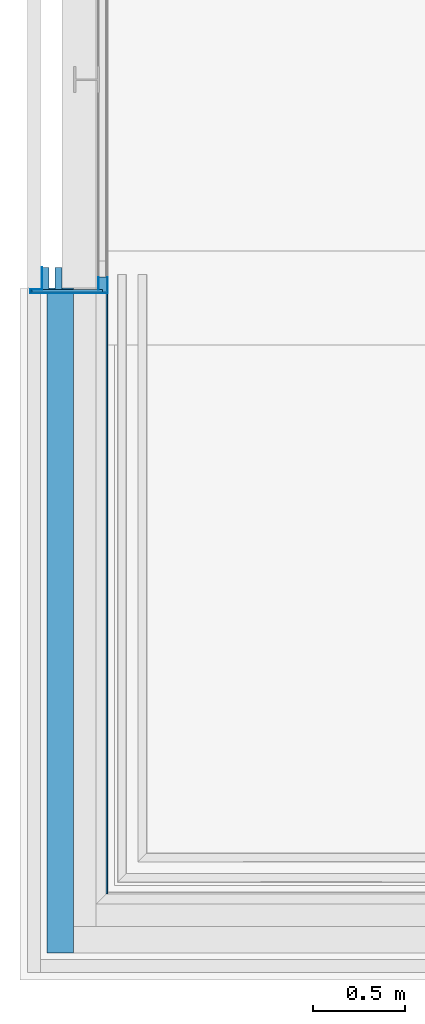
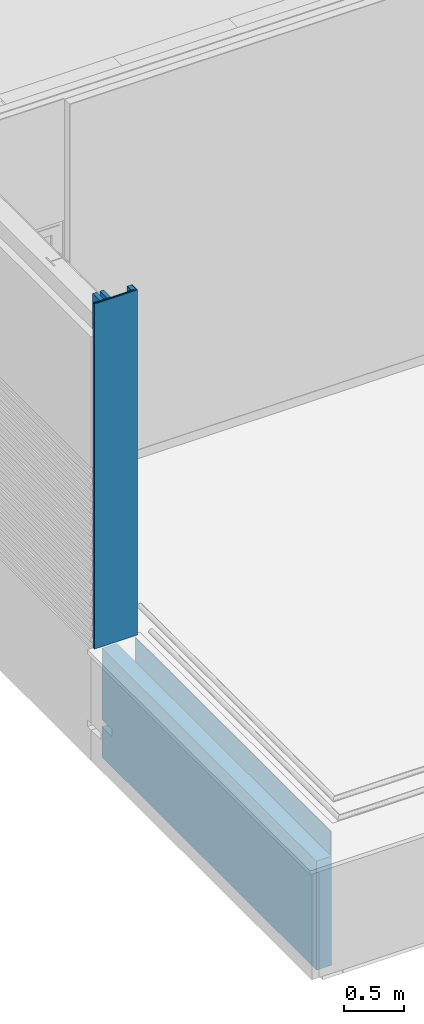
# One storey, part 52 of 137: 10 building element parts, 1 opening, 2 elements without a shape of their own.
"""IFC2X3 building model written with IfcOpenShell, lengths in millimetres."""

from ifc_helpers import new_model, entity, si_unit, converted_unit, derived_unit, money_unit, direction, frame, origin_with_axes, place, context, subcontext, project, spatial, faceted_brep, material, type_object, element, aggregate, save


model = new_model("IFC2X3")

# Units and contexts
model_context = context("Model", 3, precision=0.01, world=origin_with_axes(), true_north=direction((0.0, 1.0)))
body_context = subcontext(model_context, "Body", "Model", "MODEL_VIEW")
ifc_project = project(units=[si_unit("LENGTHUNIT", "METRE", prefix="MILLI"), si_unit("AREAUNIT", "SQUARE_METRE"), si_unit("VOLUMEUNIT", "CUBIC_METRE"), converted_unit("PLANEANGLEUNIT", "DEGREE", entity("IfcPlaneAngleMeasure", 0.0174532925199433), si_unit("PLANEANGLEUNIT", "RADIAN"), dimensions=[0, 0, 0, 0, 0, 0, 0]), money_unit("EUR"), converted_unit("TIMEUNIT", "Year", entity("IfcTimeMeasure", 31556926.0), si_unit("TIMEUNIT", "SECOND"), dimensions=[0, 0, 1, 0, 0, 0, 0]), si_unit("MASSUNIT", "GRAM", prefix="KILO"), si_unit("THERMODYNAMICTEMPERATUREUNIT", "DEGREE_CELSIUS"), si_unit("LUMINOUSINTENSITYUNIT", "LUMEN"), si_unit("ENERGYUNIT", "JOULE", prefix="MEGA"), derived_unit("THERMALCONDUCTANCEUNIT", [(si_unit("POWERUNIT", "WATT"), 1), (si_unit("LENGTHUNIT", "METRE"), -1), (si_unit("THERMODYNAMICTEMPERATUREUNIT", "KELVIN"), -1)]), derived_unit("SPECIFICHEATCAPACITYUNIT", [(si_unit("ENERGYUNIT", "JOULE"), 1), (si_unit("MASSUNIT", "GRAM", prefix="KILO"), -1), (si_unit("THERMODYNAMICTEMPERATUREUNIT", "KELVIN"), -1)]), derived_unit("MASSDENSITYUNIT", [(si_unit("MASSUNIT", "GRAM", prefix="KILO"), 1), (si_unit("VOLUMEUNIT", "CUBIC_METRE"), -1)])], contexts=[model_context])

# Site, building, storey
site_placement = place(None, origin_with_axes())
site = spatial("IfcSite", under=ifc_project, at=site_placement, Name="Site", CompositionType="ELEMENT")
building_placement = place(site_placement, origin_with_axes())
building = spatial("IfcBuilding", under=site, at=building_placement, Name="Naam gebouw", CompositionType="ELEMENT")
storey_placement = place(building_placement, frame((0.0, 0.0, 3960.0), z_axis=(0.0, 0.0, 1.0), x_axis=(1.0, 0.0, 0.0)))
storey = spatial("IfcBuildingStorey", under=building, at=storey_placement, Name="1e verdieping", CompositionType="ELEMENT", Elevation=3960.0)

# Column, building element parts
column_type = type_object("IfcColumnType", Name="21 Kopsekant stucwerk 434 x 140", PredefinedType="COLUMN")
column_placement = place(storey_placement, frame((1.679593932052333e-05, 3515.999979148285, 765.0000000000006), z_axis=(0.0, 0.0, 1.0), x_axis=(1.0, 0.0, 0.0)))
column = element("IfcColumn", 1, at=column_placement, inside=storey, type_object=column_type, Name="28_Kolom-x", ObjectType="COLUMN")
ifc_material_1 = material(Name="STO pleisterlaag")
building_element_part_1_placement = place(column_placement, origin_with_axes())
building_element_part_1 = element("IfcBuildingElementPart", 2, at=building_element_part_1_placement, material=ifc_material_1, Name="STO pleisterlaag", context=body_context, shape_type="Brep", body=[
    faceted_brep([(-234.9999991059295, -72.00000010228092, 0.0), (-234.9999991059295, -92.00000000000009, 0.0), (-234.9999991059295, -92.00000000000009, 3535.000000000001), (-234.9999991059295, -72.00000010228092, 3535.000000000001), (-231.9999966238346, -72.00000634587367, 0.0), (-231.9999966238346, -88.999997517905, 0.0), (180.9999975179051, -88.999997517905, 0.0), (180.9999975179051, -4.000004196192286, 0.0), (184.0, -4.000004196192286, 0.0), (184.0, -92.00000000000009, 0.0), (184.0, -92.00000000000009, 3535.000000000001), (184.0, -4.000004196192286, 3535.000000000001), (180.9999975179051, -4.000004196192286, 3535.000000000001), (180.9999975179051, -88.999997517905, 3535.000000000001), (-231.9999966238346, -88.999997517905, 3535.000000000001), (-231.9999966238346, -72.00000634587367, 3535.000000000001)], [[[0, 1, 2, 3]], [[0, 4, 5, 6, 7, 8, 9, 1]], [[1, 9, 10, 2]], [[3, 2, 10, 11, 12, 13, 14, 15]], [[4, 0, 3, 15]], [[5, 4, 15, 14]], [[6, 5, 14, 13]], [[7, 6, 13, 12]], [[8, 7, 12, 11]], [[9, 8, 11, 10]]]),
])
ifc_material_2 = material(Name="STO lijmlaag")
building_element_part_2_placement = place(column_placement, origin_with_axes())
building_element_part_2 = element("IfcBuildingElementPart", 3, at=building_element_part_2_placement, material=ifc_material_2, Name="STO lijmlaag", context=body_context, shape_type="Brep", body=[
    faceted_brep([(132.0000039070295, -4.000000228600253, 0.0), (132.0000039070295, -71.99999775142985, 0.0), (132.0000039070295, -71.99999775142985, 3535.000000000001), (132.0000039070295, -4.000000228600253, 3535.000000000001), (136.0000027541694, -4.000000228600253, 0.0), (136.0000027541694, -71.99999775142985, 0.0), (136.0000027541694, -71.99999775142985, 3535.000000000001), (136.0000027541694, -4.000000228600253, 3535.000000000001)], [[[0, 1, 2, 3]], [[0, 4, 5, 1]], [[1, 5, 6, 2]], [[3, 2, 6, 7]], [[4, 0, 3, 7]], [[5, 4, 7, 6]]]),
])
ifc_material_3 = material(Name="Cementgebonden plaatmateriaal")
building_element_part_3_placement = place(column_placement, origin_with_axes())
building_element_part_3 = element("IfcBuildingElementPart", 4, at=building_element_part_3_placement, material=ifc_material_3, Name="Cementgebonden plaatmateriaal", context=body_context, shape_type="Brep", body=[
    faceted_brep([(-226.9999996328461, -84.00000000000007, 0.0), (155.9999969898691, -84.00000000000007, 0.0), (155.9999969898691, -84.00000000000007, 3535.000000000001), (-226.9999996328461, -84.00000000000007, 3535.000000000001), (-226.9999996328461, -71.99999496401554, 0.0), (-64.00000017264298, -71.99999496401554, 0.0), (132.0000039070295, -71.99999775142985, 0.0), (155.9999969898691, -71.99999496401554, 0.0), (155.9999969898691, -71.99999496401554, 3535.000000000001), (132.0000039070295, -71.99999775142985, 3535.000000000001), (-64.00000017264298, -71.99999496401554, 3535.000000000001), (-226.9999996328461, -71.99999496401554, 3535.000000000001)], [[[0, 1, 2, 3]], [[0, 4, 5, 6, 7, 1]], [[1, 7, 8, 2]], [[3, 2, 8, 9, 10, 11]], [[4, 0, 3, 11]], [[5, 4, 11, 10]], [[6, 5, 10, 9]], [[7, 6, 9, 8]]]),
])
ifc_material_4 = material(Name="31 Metaal - Aluminium kozijn")
building_element_part_4_placement = place(column_placement, origin_with_axes())
building_element_part_4 = element("IfcBuildingElementPart", 5, at=building_element_part_4_placement, material=ifc_material_4, Name="31 Metaal - Aluminium kozijn", context=body_context, shape_type="Brep", body=[
    faceted_brep([(-171.9999991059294, -70.00000327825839, 0.0), (-234.9999991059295, -70.00000327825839, 0.0), (-234.9999991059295, -70.00000327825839, 3535.000000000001), (-171.9999991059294, -70.00000327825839, 3535.000000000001), (-171.9999991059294, -62.00000238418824, 0.0), (-172.000001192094, 48.00000000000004, 0.0), (-169.9999994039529, 48.00000000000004, 0.0), (-169.9999994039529, -71.99999880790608, 0.0), (-234.9999991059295, -72.00000298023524, 0.0), (-234.9999991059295, -72.00000298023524, 3535.000000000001), (-169.9999994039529, -71.99999880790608, 3535.000000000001), (-169.9999994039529, 48.00000000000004, 3535.000000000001), (-172.000001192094, 48.00000000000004, 3535.000000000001), (-171.9999991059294, -62.00000238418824, 3535.000000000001)], [[[0, 1, 2, 3]], [[0, 4, 5, 6, 7, 8, 1]], [[1, 8, 9, 2]], [[3, 2, 9, 10, 11, 12, 13]], [[4, 0, 3, 13]], [[5, 4, 13, 12]], [[6, 5, 12, 11]], [[7, 6, 11, 10]], [[8, 7, 10, 9]]]),
])
ifc_material_5 = material(Name="Isolatie - Kunststof zacht")
building_element_part_5_placement = place(column_placement, origin_with_axes())
building_element_part_5 = element("IfcBuildingElementPart", 6, at=building_element_part_5_placement, material=ifc_material_5, Name="Isolatie - Kunststof zacht", context=body_context, shape_type="Brep", body=[
    faceted_brep([(136.0000012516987, -72.00000000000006, 0.0), (155.9999997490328, -72.00000000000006, 0.0), (155.9999997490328, -72.00000000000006, 3535.000000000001), (136.0000012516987, -72.00000000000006, 3535.000000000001), (136.0000012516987, -4.000000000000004, 0.0), (175.9999997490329, -4.000000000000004, 0.0), (175.9999997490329, -84.00000000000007, 0.0), (155.9999997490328, -84.00000000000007, 0.0), (155.9999997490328, -84.00000000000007, 3535.000000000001), (175.9999997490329, -84.00000000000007, 3535.000000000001), (175.9999997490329, -4.000000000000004, 3535.000000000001), (136.0000012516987, -4.000000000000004, 3535.000000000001)], [[[0, 1, 2, 3]], [[0, 4, 5, 6, 7, 1]], [[1, 7, 8, 2]], [[3, 2, 8, 9, 10, 11]], [[4, 0, 3, 11]], [[5, 4, 11, 10]], [[6, 5, 10, 9]], [[7, 6, 9, 8]]]),
])
ifc_material_6 = material(Name="Hout C")
building_element_part_6_placement = place(column_placement, origin_with_axes())
building_element_part_6 = element("IfcBuildingElementPart", 7, at=building_element_part_6_placement, material=ifc_material_6, Name="Hout C", context=body_context, shape_type="Brep", body=[
    faceted_brep([(-64.0, -72.00000000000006, 0.0), (-64.0, 48.00000000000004, 0.0), (-64.0, 48.00000000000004, 3535.000000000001), (-64.0, -72.00000000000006, 3535.000000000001), (-102.0, -72.00000000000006, 0.0), (-102.0, 48.00000000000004, 0.0), (-102.0, 48.00000000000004, 3535.000000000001), (-102.0, -72.00000000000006, 3535.000000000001)], [[[0, 1, 2, 3]], [[0, 4, 5, 1]], [[1, 5, 6, 2]], [[3, 2, 6, 7]], [[4, 0, 3, 7]], [[5, 4, 7, 6]]]),
])
building_element_part_7_placement = place(column_placement, origin_with_axes())
building_element_part_7 = element("IfcBuildingElementPart", 8, at=building_element_part_7_placement, material=ifc_material_6, Name="Hout C", context=body_context, shape_type="Brep", body=[
    faceted_brep([(-131.9999999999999, -72.00000000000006, 0.0), (-131.9999999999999, 48.00000000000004, 0.0), (-131.9999999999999, 48.00000000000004, 3535.000000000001), (-131.9999999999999, -72.00000000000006, 3535.000000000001), (-170.0, -72.00000000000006, 0.0), (-170.0, 48.00000000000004, 0.0), (-170.0, 48.00000000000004, 3535.000000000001), (-170.0, -72.00000000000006, 3535.000000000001)], [[[0, 1, 2, 3]], [[0, 4, 5, 1]], [[1, 5, 6, 2]], [[3, 2, 6, 7]], [[4, 0, 3, 7]], [[5, 4, 7, 6]]]),
])
ifc_material_7 = material(Name="STO weefsellaag")
building_element_part_8_placement = place(column_placement, origin_with_axes())
building_element_part_8 = element("IfcBuildingElementPart", 9, at=building_element_part_8_placement, material=ifc_material_7, Name="STO weefsellaag", context=body_context, shape_type="Brep", body=[
    faceted_brep([(-226.999998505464, -72.00000442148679, 0.0), (-231.9999972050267, -72.00000442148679, 0.0), (-231.9999972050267, -72.00000442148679, 3535.000000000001), (-226.999998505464, -72.00000442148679, 3535.000000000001), (-226.999998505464, -84.00000130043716, 0.0), (176.0000013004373, -84.00000130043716, 0.0), (176.0000013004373, -4.000003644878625, 0.0), (181.0, -4.000003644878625, 0.0), (181.0, -88.99999999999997, 0.0), (-231.9999972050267, -88.99999999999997, 0.0), (-231.9999972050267, -88.99999999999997, 3535.000000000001), (181.0, -88.99999999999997, 3535.000000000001), (181.0, -4.000003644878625, 3535.000000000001), (176.0000013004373, -4.000003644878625, 3535.000000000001), (176.0000013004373, -84.00000130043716, 3535.000000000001), (-226.999998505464, -84.00000130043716, 3535.000000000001)], [[[0, 1, 2, 3]], [[0, 4, 5, 6, 7, 8, 9, 1]], [[1, 9, 10, 2]], [[3, 2, 10, 11, 12, 13, 14, 15]], [[4, 0, 3, 15]], [[5, 4, 15, 14]], [[6, 5, 14, 13]], [[7, 6, 13, 12]], [[8, 7, 12, 11]], [[9, 8, 11, 10]]]),
])
aggregate(column, [building_element_part_1, building_element_part_2, building_element_part_3, building_element_part_4, building_element_part_5, building_element_part_6, building_element_part_7, building_element_part_8])

# Wall, opening, building element parts
wall_type = type_object("IfcWallType", Name="21 Borstwering metselwerk 434", PredefinedType="NOTDEFINED")
wall_placement = place(storey_placement, frame((1.679593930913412e-05, 3453.999976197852, -390.0000000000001), z_axis=(0.0, 0.0, 1.0), x_axis=(0.0, -1.0, 0.0)))
wall = element("IfcWall", 10, at=wall_placement, inside=storey, type_object=wall_type, Name="21_Wand-x")
opening_placement = place(wall_placement, frame((3453.999976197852, -1.679593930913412e-05, -3570.0), z_axis=(0.0, 0.0, 1.0), x_axis=(0.0, 1.0, 0.0)))
element("IfcOpeningElement", 11, at=opening_placement, cuts=wall, Name="_Opening-x", context=body_context, shape_type="Brep", body=[
    faceted_brep([(80.00001679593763, 3513.959504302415, 3883.0), (80.00001679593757, 3283.959504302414, 3883.0), (-684.0000167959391, 3283.959504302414, 3883.0), (-684.0000167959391, 3513.959504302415, 3883.0), (80.00001679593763, 3513.959504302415, 3953.000000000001), (80.00001679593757, 3283.959504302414, 3953.000000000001), (-684.0000167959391, 3283.959504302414, 3953.000000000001), (-684.0000167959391, 3513.959504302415, 3953.000000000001)], [[[0, 1, 2, 3]], [[0, 4, 5, 1]], [[1, 5, 6, 2]], [[3, 2, 6, 7]], [[4, 0, 3, 7]], [[5, 4, 7, 6]]]),
])
ifc_material_8 = material(Name="Eternit wit")
building_element_part_9_placement = place(wall_placement, origin_with_axes())
building_element_part_9 = element("IfcBuildingElementPart", 12, at=building_element_part_9_placement, material=ifc_material_8, Name="Eternit wit", context=body_context, shape_type="Brep", body=[
    faceted_brep([(3269.999976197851, 183.9999801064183, 480.0), (0.0, 183.9999801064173, 480.0), (0.0, 183.9999999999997, 1115.000000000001), (3277.999976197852, 184.0000000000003, 1115.000000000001), (3277.999976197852, 184.0000000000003, 480.0), (3277.99996625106, 175.9999900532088, 480.0), (0.0, 175.9999999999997, 480.0), (0.0, 175.9999999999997, 1115.000000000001), (3277.999976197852, 176.0000000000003, 1115.000000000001)], [[[0, 1, 2, 3, 4]], [[5, 6, 1, 0, 4]], [[1, 6, 7, 2]], [[7, 8, 3, 2]], [[8, 5, 4, 3]], [[6, 5, 8, 7]]]),
])
ifc_material_9 = material(Name="Isolatie - Steenwol zacht")
building_element_part_10_placement = place(wall_placement, origin_with_axes())
building_element_part_10 = element("IfcBuildingElementPart", 13, at=building_element_part_10_placement, material=ifc_material_9, Name="Isolatie - Steenwol zacht", context=body_context, shape_type="Brep", body=[
    faceted_brep([(170.0404718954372, 0.0, 313.0000000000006), (170.0404718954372, 0.0, 383.0000000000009), (0.0, 0.0, 383.0000000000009), (0.0, 0.0, 1115.000000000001), (3598.999976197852, 0.0, 1115.000000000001), (3598.999976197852, 0.0, 0.0), (0.0, 0.0, 0.0), (0.0, 0.0, 313.0000000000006), (170.0404718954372, -145.0, 313.0000000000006), (170.0404718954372, -145.0, 383.0000000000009), (0.0, -145.0, 383.0000000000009), (0.0, -144.9999999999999, 1115.000000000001), (3598.999976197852, -144.9999999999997, 1115.000000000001), (3598.999976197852, -144.9999999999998, 0.0), (0.0, -145.0, 0.0), (0.0, -145.0, 313.0000000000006)], [[[0, 1, 2, 3, 4, 5, 6, 7]], [[1, 0, 8, 9]], [[10, 2, 1, 9]], [[2, 10, 11, 3]], [[4, 3, 11, 12]], [[4, 12, 13, 5]], [[13, 14, 6, 5]], [[15, 7, 6, 14]], [[0, 7, 15, 8]], [[8, 15, 14, 13, 12, 11, 10, 9]]]),
])
aggregate(wall, [building_element_part_9, building_element_part_10])

save(model, "model.ifc")
